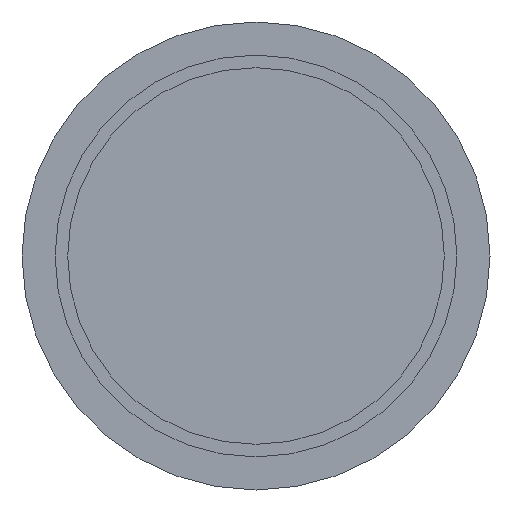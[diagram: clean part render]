
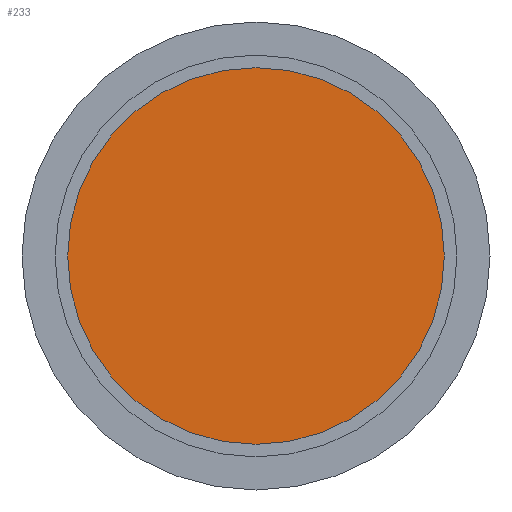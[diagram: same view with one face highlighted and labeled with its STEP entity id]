
A CAD part, left-side view. The second image highlights one B-rep face of the part: STEP entity #233.
In plain terms, the highlighted planar face has unit normal (-1, 0, 0).
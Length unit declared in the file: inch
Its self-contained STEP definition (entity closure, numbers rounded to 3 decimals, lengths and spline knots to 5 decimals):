
#19=PLANE('',#285);
#41=FACE_OUTER_BOUND('',#54,.T.);
#54=EDGE_LOOP('',(#188,#189));
#81=CIRCLE('',#286,1.157);
#82=CIRCLE('',#287,1.157);
#106=VERTEX_POINT('',#432);
#107=VERTEX_POINT('',#433);
#136=EDGE_CURVE('',#106,#107,#81,.T.);
#137=EDGE_CURVE('',#107,#106,#82,.T.);
#188=ORIENTED_EDGE('',*,*,#136,.F.);
#189=ORIENTED_EDGE('',*,*,#137,.F.);
#233=ADVANCED_FACE('',(#41),#19,.T.);
#285=AXIS2_PLACEMENT_3D('',#431,#356,#357);
#286=AXIS2_PLACEMENT_3D('',#434,#358,#359);
#287=AXIS2_PLACEMENT_3D('',#435,#360,#361);
#356=DIRECTION('center_axis',(-1.,0.,0.));
#357=DIRECTION('ref_axis',(0.,0.,1.));
#358=DIRECTION('center_axis',(1.,0.,0.));
#359=DIRECTION('ref_axis',(0.,1.,0.));
#360=DIRECTION('center_axis',(1.,0.,0.));
#361=DIRECTION('ref_axis',(0.,1.,0.));
#431=CARTESIAN_POINT('Origin',(0.797,0.5785,0.));
#432=CARTESIAN_POINT('',(0.797,1.157,0.));
#433=CARTESIAN_POINT('',(0.797,-1.157,0.));
#434=CARTESIAN_POINT('Origin',(0.797,0.,0.));
#435=CARTESIAN_POINT('Origin',(0.797,0.,0.));
